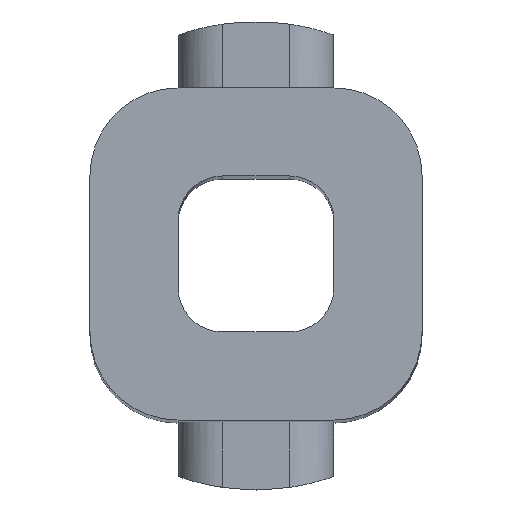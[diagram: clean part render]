
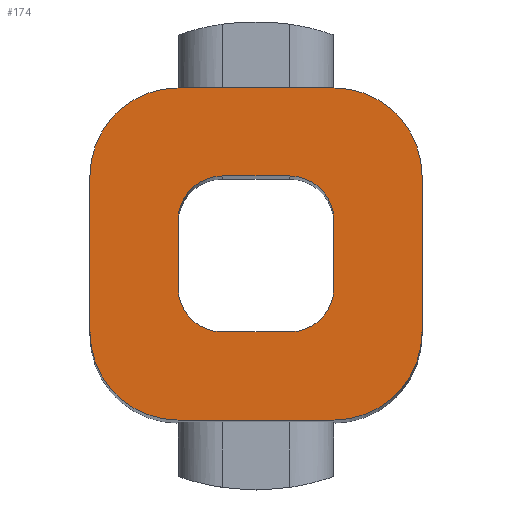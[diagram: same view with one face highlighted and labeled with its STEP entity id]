
A CAD part, top view. The second image highlights one B-rep face of the part: STEP entity #174.
In plain terms, the highlighted planar face has unit normal (0, 0, 1).
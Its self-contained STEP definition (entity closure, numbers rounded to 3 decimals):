
#120=FACE_BOUND('',#272,.T.);
#121=FACE_BOUND('',#273,.T.);
#137=CIRCLE('',#797,3.95);
#139=CIRCLE('',#801,3.95);
#143=CIRCLE('',#807,3.95);
#145=CIRCLE('',#811,3.95);
#146=CIRCLE('',#813,2.);
#147=CIRCLE('',#814,2.);
#148=CIRCLE('',#815,2.);
#149=CIRCLE('',#816,2.);
#174=ADVANCED_FACE('',(#120,#121),#210,.T.);
#210=PLANE('',#817);
#272=EDGE_LOOP('',(#365,#366,#367,#368,#369,#370,#371,#372));
#273=EDGE_LOOP('',(#373,#374,#375,#376,#377,#378,#379,#380));
#365=ORIENTED_EDGE('',*,*,#610,.F.);
#366=ORIENTED_EDGE('',*,*,#611,.F.);
#367=ORIENTED_EDGE('',*,*,#612,.F.);
#368=ORIENTED_EDGE('',*,*,#613,.F.);
#369=ORIENTED_EDGE('',*,*,#614,.F.);
#370=ORIENTED_EDGE('',*,*,#615,.F.);
#371=ORIENTED_EDGE('',*,*,#616,.F.);
#372=ORIENTED_EDGE('',*,*,#617,.F.);
#373=ORIENTED_EDGE('',*,*,#577,.T.);
#374=ORIENTED_EDGE('',*,*,#586,.T.);
#375=ORIENTED_EDGE('',*,*,#590,.T.);
#376=ORIENTED_EDGE('',*,*,#594,.T.);
#377=ORIENTED_EDGE('',*,*,#599,.T.);
#378=ORIENTED_EDGE('',*,*,#602,.T.);
#379=ORIENTED_EDGE('',*,*,#606,.T.);
#380=ORIENTED_EDGE('',*,*,#609,.T.);
#514=VERTEX_POINT('',#1095);
#515=VERTEX_POINT('',#1097);
#522=VERTEX_POINT('',#1114);
#524=VERTEX_POINT('',#1121);
#526=VERTEX_POINT('',#1128);
#530=VERTEX_POINT('',#1138);
#532=VERTEX_POINT('',#1144);
#534=VERTEX_POINT('',#1151);
#535=VERTEX_POINT('',#1159);
#536=VERTEX_POINT('',#1160);
#537=VERTEX_POINT('',#1162);
#538=VERTEX_POINT('',#1164);
#539=VERTEX_POINT('',#1166);
#540=VERTEX_POINT('',#1168);
#541=VERTEX_POINT('',#1170);
#542=VERTEX_POINT('',#1172);
#577=EDGE_CURVE('',#515,#514,#672,.T.);
#586=EDGE_CURVE('',#514,#522,#137,.T.);
#590=EDGE_CURVE('',#522,#524,#681,.T.);
#594=EDGE_CURVE('',#524,#526,#139,.T.);
#599=EDGE_CURVE('',#526,#530,#686,.T.);
#602=EDGE_CURVE('',#530,#532,#143,.T.);
#606=EDGE_CURVE('',#532,#534,#691,.T.);
#609=EDGE_CURVE('',#534,#515,#145,.T.);
#610=EDGE_CURVE('',#535,#536,#146,.T.);
#611=EDGE_CURVE('',#537,#535,#693,.T.);
#612=EDGE_CURVE('',#538,#537,#147,.T.);
#613=EDGE_CURVE('',#539,#538,#694,.T.);
#614=EDGE_CURVE('',#540,#539,#148,.T.);
#615=EDGE_CURVE('',#541,#540,#695,.T.);
#616=EDGE_CURVE('',#542,#541,#149,.T.);
#617=EDGE_CURVE('',#536,#542,#696,.T.);
#672=LINE('',#1096,#734);
#681=LINE('',#1122,#743);
#686=LINE('',#1139,#748);
#691=LINE('',#1152,#753);
#693=LINE('',#1161,#755);
#694=LINE('',#1165,#756);
#695=LINE('',#1169,#757);
#696=LINE('',#1173,#758);
#734=VECTOR('',#881,1.);
#743=VECTOR('',#904,1.);
#748=VECTOR('',#921,1.);
#753=VECTOR('',#934,1.);
#755=VECTOR('',#946,1.);
#756=VECTOR('',#949,1.);
#757=VECTOR('',#952,1.);
#758=VECTOR('',#955,1.);
#797=AXIS2_PLACEMENT_3D('',#1115,#897,#898);
#801=AXIS2_PLACEMENT_3D('',#1129,#911,#912);
#807=AXIS2_PLACEMENT_3D('',#1145,#927,#928);
#811=AXIS2_PLACEMENT_3D('',#1156,#940,#941);
#813=AXIS2_PLACEMENT_3D('',#1158,#944,#945);
#814=AXIS2_PLACEMENT_3D('',#1163,#947,#948);
#815=AXIS2_PLACEMENT_3D('',#1167,#950,#951);
#816=AXIS2_PLACEMENT_3D('',#1171,#953,#954);
#817=AXIS2_PLACEMENT_3D('',#1174,#956,#957);
#881=DIRECTION('',(1.,0.,0.));
#897=DIRECTION('',(0.,0.,1.));
#898=DIRECTION('',(1.,0.,0.));
#904=DIRECTION('',(0.,1.,0.));
#911=DIRECTION('',(0.,0.,1.));
#912=DIRECTION('',(1.,0.,0.));
#921=DIRECTION('',(-1.,0.,0.));
#927=DIRECTION('',(0.,0.,1.));
#928=DIRECTION('',(1.,0.,0.));
#934=DIRECTION('',(0.,-1.,0.));
#940=DIRECTION('',(0.,0.,1.));
#941=DIRECTION('',(1.,0.,0.));
#944=DIRECTION('',(0.,0.,1.));
#945=DIRECTION('',(1.,0.,0.));
#946=DIRECTION('',(1.,0.,0.));
#947=DIRECTION('',(0.,0.,1.));
#948=DIRECTION('',(1.,0.,0.));
#949=DIRECTION('',(0.,-1.,0.));
#950=DIRECTION('',(0.,0.,1.));
#951=DIRECTION('',(1.,0.,0.));
#952=DIRECTION('',(-1.,0.,0.));
#953=DIRECTION('',(0.,0.,1.));
#954=DIRECTION('',(1.,0.,0.));
#955=DIRECTION('',(0.,1.,0.));
#956=DIRECTION('',(0.,0.,1.));
#957=DIRECTION('',(1.,0.,0.));
#1095=CARTESIAN_POINT('',(93.288,57.55,105.5));
#1096=CARTESIAN_POINT('',(86.288,57.55,105.5));
#1097=CARTESIAN_POINT('',(86.288,57.55,105.5));
#1114=CARTESIAN_POINT('',(97.238,61.5,105.5));
#1115=CARTESIAN_POINT('',(93.288,61.5,105.5));
#1121=CARTESIAN_POINT('',(97.238,68.5,105.5));
#1122=CARTESIAN_POINT('',(97.238,61.5,105.5));
#1128=CARTESIAN_POINT('',(93.288,72.45,105.5));
#1129=CARTESIAN_POINT('',(93.288,68.5,105.5));
#1138=CARTESIAN_POINT('',(86.288,72.45,105.5));
#1139=CARTESIAN_POINT('',(93.288,72.45,105.5));
#1144=CARTESIAN_POINT('',(82.338,68.5,105.5));
#1145=CARTESIAN_POINT('',(86.288,68.5,105.5));
#1151=CARTESIAN_POINT('',(82.338,61.5,105.5));
#1152=CARTESIAN_POINT('',(82.338,68.5,105.5));
#1156=CARTESIAN_POINT('',(86.288,61.5,105.5));
#1158=CARTESIAN_POINT('',(91.288,63.5,105.5));
#1159=CARTESIAN_POINT('',(91.288,61.5,105.5));
#1160=CARTESIAN_POINT('',(93.288,63.5,105.5));
#1161=CARTESIAN_POINT('',(88.288,61.5,105.5));
#1162=CARTESIAN_POINT('',(88.288,61.5,105.5));
#1163=CARTESIAN_POINT('',(88.288,63.5,105.5));
#1164=CARTESIAN_POINT('',(86.288,63.5,105.5));
#1165=CARTESIAN_POINT('',(86.288,66.5,105.5));
#1166=CARTESIAN_POINT('',(86.288,66.5,105.5));
#1167=CARTESIAN_POINT('',(88.288,66.5,105.5));
#1168=CARTESIAN_POINT('',(88.288,68.5,105.5));
#1169=CARTESIAN_POINT('',(91.288,68.5,105.5));
#1170=CARTESIAN_POINT('',(91.288,68.5,105.5));
#1171=CARTESIAN_POINT('',(91.288,66.5,105.5));
#1172=CARTESIAN_POINT('',(93.288,66.5,105.5));
#1173=CARTESIAN_POINT('',(93.288,63.5,105.5));
#1174=CARTESIAN_POINT('',(93.288,61.5,105.5));
